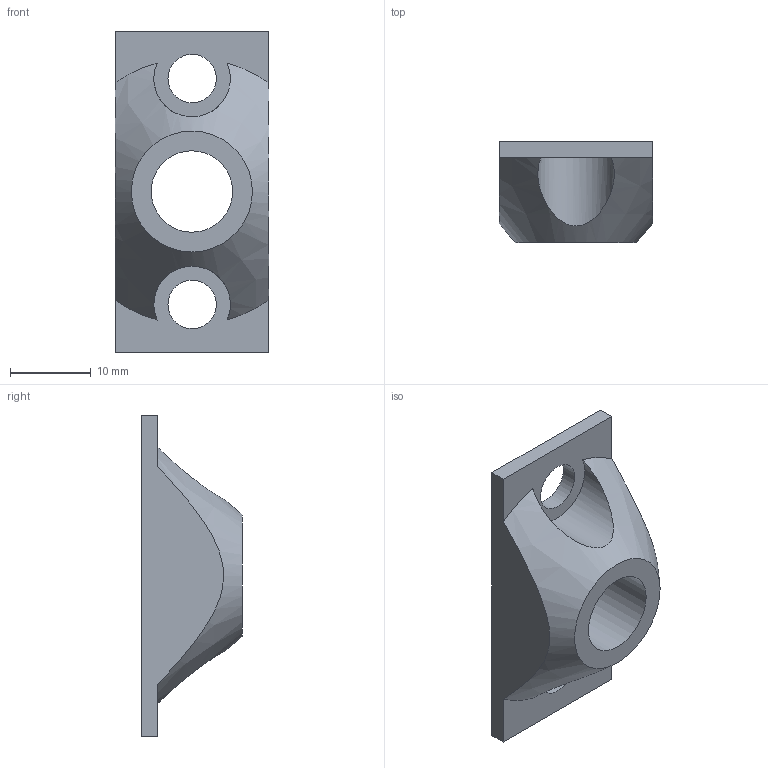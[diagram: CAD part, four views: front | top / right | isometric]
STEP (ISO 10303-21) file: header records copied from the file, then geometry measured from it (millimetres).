
FILE_DESCRIPTION(/* description */ (''),/* implementation_level */ '2;1');
FILE_NAME(/* name */ '4_feet_holder_JARVIS_airpath v1.step',/* time_stamp */ '2023-06-05T13:46:53+02:00',/* author */ (''),/* organization */ (''),/* preprocessor_version */ 'ST-DEVELOPER v19.2',/* originating_system */ 'Autodesk Translation Framework v12.6.0.85',/* authorisation */ '');
FILE_SCHEMA (('AUTOMOTIVE_DESIGN { 1 0 10303 214 3 1 1 }'));
Length unit declared in the file: millimetre
Products named in the file (2): 4_endcap_JARVIS_airpath; Füße (alter Airpath) v3
Assembly tree (1 placements, depth 2):
  4_endcap_JARVIS_airpath
    Füße (alter Airpath) v3
Bounding box: 19.03 x 12.5 x 39.88 mm (x, y, z)
Volume: 4147.7 mm3; surface area: 2574.4 mm2
Topology: 1 solids, 1 shells, 14 faces, 36 edges, 24 vertices
Faces by surface type: plane 8, cylinder 5, cone 1
Full cylindrical faces by diameter (mm): 6 x2, 10.1 x1
Entity records: 574 total; most frequent: CARTESIAN_POINT 135, DIRECTION 78, ORIENTED_EDGE 72, EDGE_CURVE 36, AXIS2_PLACEMENT_3D 30, VERTEX_POINT 24, EDGE_LOOP 20, LINE 18
